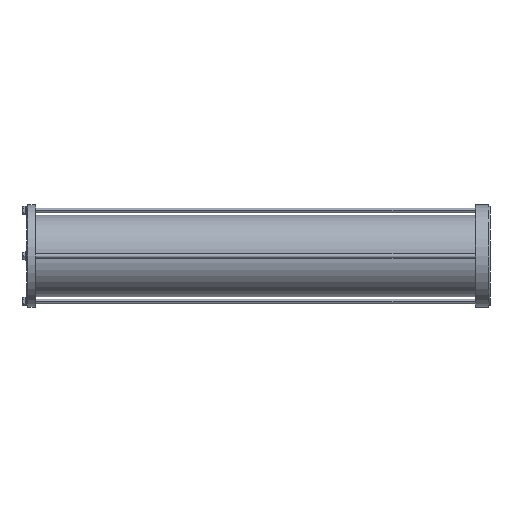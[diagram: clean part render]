
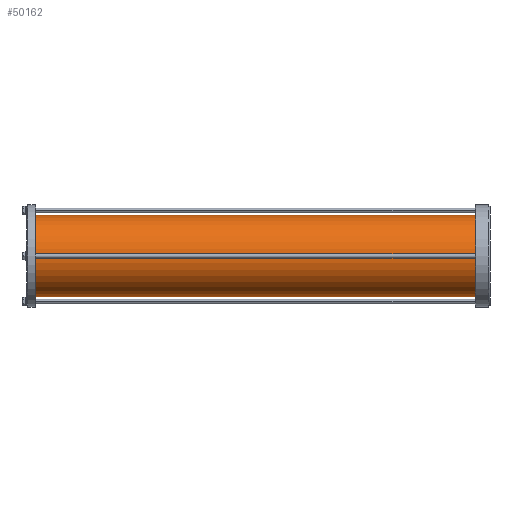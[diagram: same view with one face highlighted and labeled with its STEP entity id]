
A CAD part, left-side view. The second image highlights one B-rep face of the part: STEP entity #50162.
In plain terms, the highlighted cylindrical face has radius 55 mm (diameter 110 mm), a partial arc.
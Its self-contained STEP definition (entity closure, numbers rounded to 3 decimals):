
#561 = VERTEX_POINT ( 'NONE', #87815 ) ;
#701 = VERTEX_POINT ( 'NONE', #3490 ) ;
#3490 = CARTESIAN_POINT ( 'NONE',  ( 40.045, 628.458, 156.617 ) ) ;
#7458 = DIRECTION ( 'NONE',  ( 0., 1., 0. ) ) ;
#8101 = DIRECTION ( 'NONE',  ( 0., -1., 0. ) ) ;
#11631 = VERTEX_POINT ( 'NONE', #15668 ) ;
#15668 = CARTESIAN_POINT ( 'NONE',  ( 40.045, 628.458, 46.617 ) ) ;
#16161 = EDGE_CURVE ( 'NONE', #561, #46281, #19045, .T. ) ;
#18576 = CARTESIAN_POINT ( 'NONE',  ( 40.045, 628.458, 156.617 ) ) ;
#18765 = DIRECTION ( 'NONE',  ( 0., -1., 0. ) ) ;
#19045 = CIRCLE ( 'NONE', #65020, 55. ) ;
#23934 = EDGE_LOOP ( 'NONE', ( #43790, #60677, #90530, #108799 ) ) ;
#33590 = EDGE_CURVE ( 'NONE', #701, #46281, #100719, .T. ) ;
#36330 = VECTOR ( 'NONE', #116909, 1000. ) ;
#36759 = DIRECTION ( 'NONE',  ( 0., 1., 0. ) ) ;
#39074 = CARTESIAN_POINT ( 'NONE',  ( 40.045, 628.458, 101.617 ) ) ;
#43790 = ORIENTED_EDGE ( 'NONE', *, *, #33590, .F. ) ;
#46281 = VERTEX_POINT ( 'NONE', #51783 ) ;
#50162 = ADVANCED_FACE ( 'NONE', ( #91913 ), #64940, .T. ) ;
#51783 = CARTESIAN_POINT ( 'NONE',  ( 40.045, 26.458, 156.617 ) ) ;
#60677 = ORIENTED_EDGE ( 'NONE', *, *, #86841, .F. ) ;
#64940 = CYLINDRICAL_SURFACE ( 'NONE', #75187, 55. ) ;
#64982 = DIRECTION ( 'NONE',  ( 0., 0., 1. ) ) ;
#65020 = AXIS2_PLACEMENT_3D ( 'NONE', #69899, #7458, #71082 ) ;
#66128 = DIRECTION ( 'NONE',  ( 0., 0., -1. ) ) ;
#69899 = CARTESIAN_POINT ( 'NONE',  ( 40.045, 26.458, 101.617 ) ) ;
#71082 = DIRECTION ( 'NONE',  ( 0., 0., 1. ) ) ;
#73493 = CARTESIAN_POINT ( 'NONE',  ( 40.045, 628.458, 46.617 ) ) ;
#75187 = AXIS2_PLACEMENT_3D ( 'NONE', #39074, #18765, #66128 ) ;
#79693 = CIRCLE ( 'NONE', #96982, 55. ) ;
#86841 = EDGE_CURVE ( 'NONE', #11631, #701, #79693, .T. ) ;
#87815 = CARTESIAN_POINT ( 'NONE',  ( 40.045, 26.458, 46.617 ) ) ;
#90530 = ORIENTED_EDGE ( 'NONE', *, *, #103285, .T. ) ;
#90872 = LINE ( 'NONE', #73493, #115088 ) ;
#91913 = FACE_OUTER_BOUND ( 'NONE', #23934, .T. ) ;
#96982 = AXIS2_PLACEMENT_3D ( 'NONE', #102127, #36759, #64982 ) ;
#100719 = LINE ( 'NONE', #18576, #36330 ) ;
#102127 = CARTESIAN_POINT ( 'NONE',  ( 40.045, 628.458, 101.617 ) ) ;
#103285 = EDGE_CURVE ( 'NONE', #11631, #561, #90872, .T. ) ;
#108799 = ORIENTED_EDGE ( 'NONE', *, *, #16161, .T. ) ;
#115088 = VECTOR ( 'NONE', #8101, 1000. ) ;
#116909 = DIRECTION ( 'NONE',  ( 0., -1., 0. ) ) ;
